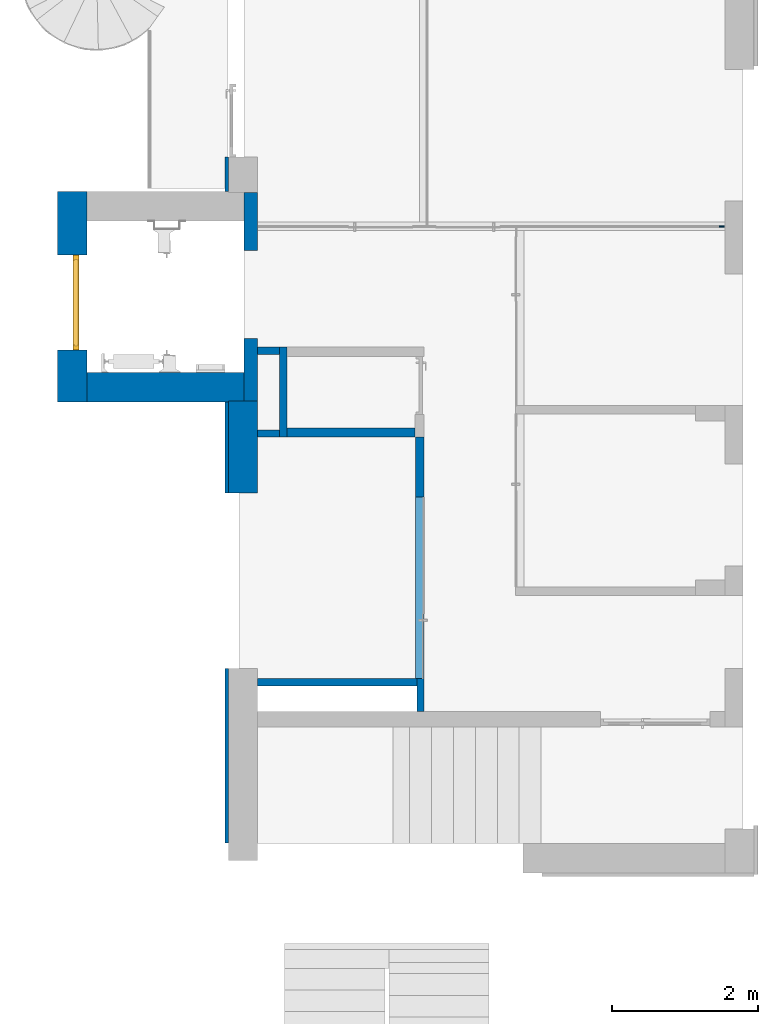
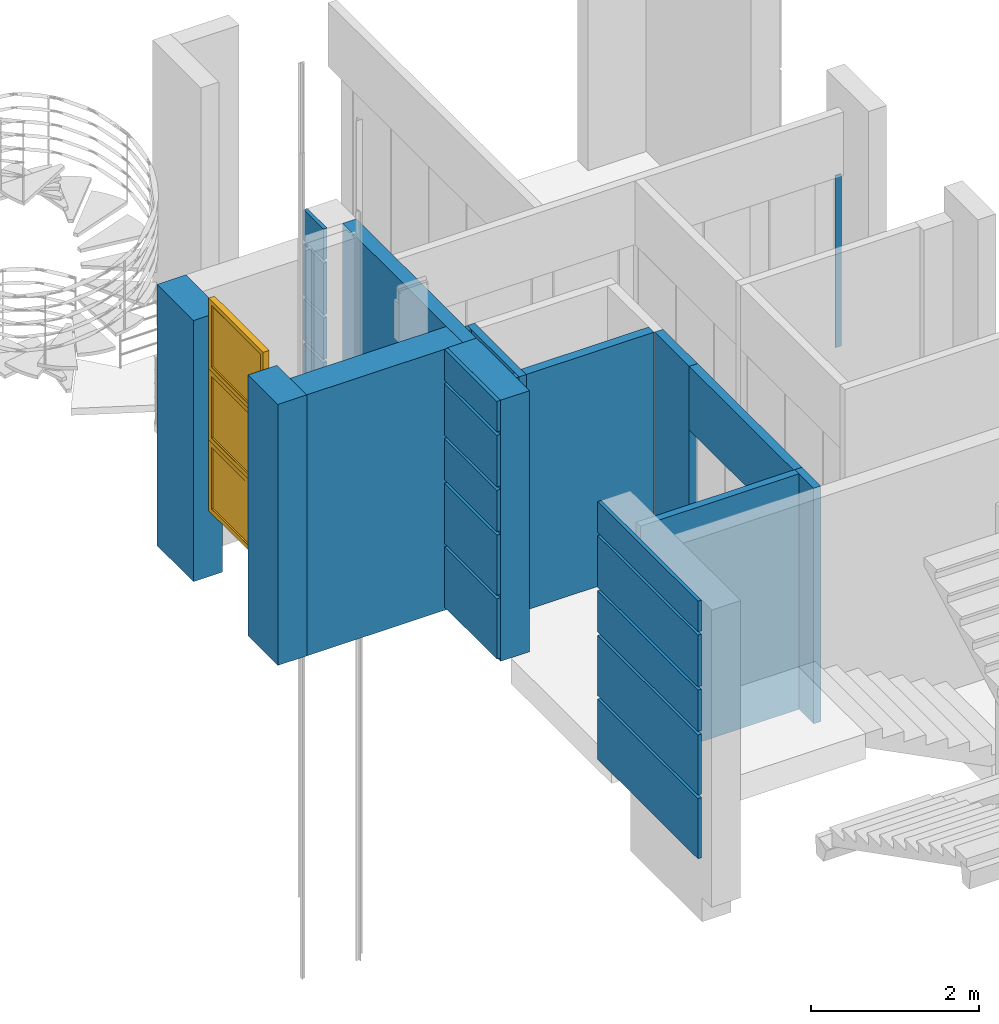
"""IFC2X3 building model written with IfcOpenShell, lengths in millimetres."""

from ifc_helpers import new_model, entity, si_unit, converted_unit, derived_unit, direction, frame, frame_2d, origin, origin_2d_with_axis, place, context, subcontext, project, spatial, rectangle, extrude, faceted_brep, source, transform, mapped, material, material_list, layer, layer_set, layer_usage, type_object, type_shapes, element, fill, aggregate, save


model = new_model("IFC2X3")

# Units and contexts
model_context = context("Model", 3, precision=0.01, world=origin(), true_north=direction((6.12303176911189e-17, 1.0)))
body_context = subcontext(model_context, "Body", "Model", "MODEL_VIEW")
ifc_project = project(units=[si_unit("LENGTHUNIT", "METRE", prefix="MILLI"), si_unit("AREAUNIT", "SQUARE_METRE"), si_unit("VOLUMEUNIT", "CUBIC_METRE"), converted_unit("PLANEANGLEUNIT", "DEGREE", entity("IfcRatioMeasure", 0.0174532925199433), si_unit("PLANEANGLEUNIT", "RADIAN"), dimensions=[0, 0, 0, 0, 0, 0, 0]), si_unit("MASSUNIT", "GRAM", prefix="KILO"), derived_unit("MASSDENSITYUNIT", [(si_unit("MASSUNIT", "GRAM", prefix="KILO"), 1), (si_unit("LENGTHUNIT", "METRE"), -3)]), si_unit("TIMEUNIT", "SECOND"), si_unit("FREQUENCYUNIT", "HERTZ"), si_unit("THERMODYNAMICTEMPERATUREUNIT", "DEGREE_CELSIUS"), derived_unit("THERMALTRANSMITTANCEUNIT", [(si_unit("MASSUNIT", "GRAM", prefix="KILO"), 1), (si_unit("THERMODYNAMICTEMPERATUREUNIT", "KELVIN"), -1), (si_unit("TIMEUNIT", "SECOND"), -3)]), derived_unit("VOLUMETRICFLOWRATEUNIT", [(si_unit("LENGTHUNIT", "METRE"), 3), (si_unit("TIMEUNIT", "SECOND"), -1)]), si_unit("ELECTRICCURRENTUNIT", "AMPERE"), si_unit("ELECTRICVOLTAGEUNIT", "VOLT"), si_unit("POWERUNIT", "WATT"), si_unit("FORCEUNIT", "NEWTON", prefix="KILO"), si_unit("ILLUMINANCEUNIT", "LUX"), si_unit("LUMINOUSFLUXUNIT", "LUMEN"), si_unit("LUMINOUSINTENSITYUNIT", "CANDELA"), derived_unit("USERDEFINED", [(si_unit("MASSUNIT", "GRAM", prefix="KILO"), -1), (si_unit("LENGTHUNIT", "METRE"), -2), (si_unit("TIMEUNIT", "SECOND"), 3), (si_unit("LUMINOUSFLUXUNIT", "LUMEN"), 1)]), derived_unit("LINEARVELOCITYUNIT", [(si_unit("LENGTHUNIT", "METRE"), 1), (si_unit("TIMEUNIT", "SECOND"), -1)]), si_unit("PRESSUREUNIT", "PASCAL"), derived_unit("USERDEFINED", [(si_unit("LENGTHUNIT", "METRE"), -2), (si_unit("MASSUNIT", "GRAM", prefix="KILO"), 1), (si_unit("TIMEUNIT", "SECOND"), -2)])], contexts=[model_context])

# Site, building, storey
site_placement = place(None, frame((-151.875543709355, 2715.0, 0.0)))
site = spatial("IfcSite", under=ifc_project, at=site_placement, Name="Surface", CompositionType="ELEMENT")
building_placement = place(site_placement, origin())
building = spatial("IfcBuilding", under=site, at=building_placement, CompositionType="ELEMENT")
storey_1_placement = place(building_placement, frame((0.0, 0.0, 3875.0)))
storey_1 = spatial("IfcBuildingStorey", under=building, at=storey_1_placement, Name="uus 2 korrus", CompositionType="ELEMENT", Elevation=3875.00000000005)

# Curtain wall, plate
curtain_wall_type = type_object("IfcCurtainWallType", Name="Curtain Wall:Klaassein KLS-15", PredefinedType="NOTDEFINED")
curtain_wall_placement = place(storey_1_placement, frame((0.0, 0.0, -3875.0)))
curtain_wall = element("IfcCurtainWall", 1, at=curtain_wall_placement, inside=storey_1, type_object=curtain_wall_type, Name="Curtain Wall:Klaassein KLS-15", ObjectType="Curtain Wall:Klaassein KLS-15")
ifc_material_1 = material(Name="<Unnamed>")
ifc_layer_1 = layer(ifc_material_1, 20.0)
ifc_layer_set_1 = layer_set([ifc_layer_1], Name="Curtain Wall:Klaassein KLS-01")
ifc_layer_usage_1 = layer_usage(ifc_layer_set_1, "AXIS3", "POSITIVE", 0.0)
plate_type = type_object("IfcPlateType", Name="Glazed", PredefinedType="CURTAIN_PANEL", material=ifc_layer_set_1)
shared_shape_1 = source(origin(), body_context, "Body", "SweptSolid", [
    extrude(rectangle(XDim=20.0, YDim=79.9999996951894, at=origin_2d_with_axis()), frame((0.0, 0.0, 0.0), z_axis=(0.0, 0.0, 1.0), x_axis=(0.0, 1.0, 0.0)), (0.0, 0.0, 1.0), 2500.00000000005),
])
type_shapes(plate_type, [shared_shape_1])
plate_placement = place(curtain_wall_placement, frame((38351.6162683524, 21659.9585633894, 3875.0)))
plate = element("IfcPlate", 2, at=plate_placement, type_object=plate_type, material=ifc_layer_usage_1, Name="System Panel:Glazed", ObjectType="Glazed", context=body_context, shape_type="MappedRepresentation", body=[
    mapped(shared_shape_1, transform((0.0, 0.0, 0.0), scale=1.0)),
])
aggregate(curtain_wall, [plate])

# Walls
ifc_material_2 = material(Name="__Kips GN13_tava")
ifc_layer_2 = layer(ifc_material_2, 12.5)
ifc_layer_3 = layer(ifc_material_2, 12.5)
ifc_material_3 = material(Name="__Soojustus EPS")
ifc_layer_4 = layer(ifc_material_3, 66.0)
ifc_layer_5 = layer(ifc_material_2, 12.5)
ifc_layer_6 = layer(ifc_material_2, 12.5)
ifc_layer_set_2 = layer_set([ifc_layer_2, ifc_layer_3, ifc_layer_4, ifc_layer_5, ifc_layer_6], Name="Basic Wall:SS-3_Kipssein tava ruumide vahel")
ifc_layer_usage_2 = layer_usage(ifc_layer_set_2, "AXIS2", "NEGATIVE", 58.0)
wall_type_1 = type_object("IfcWallType", Name="Basic Wall:SS-3_Kipssein tava ruumide vahel", PredefinedType="STANDARD", material=ifc_layer_set_2)
wall_1_placement = place(storey_1_placement, frame((34223.319652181, 17955.0, 2500.0), z_axis=(0.0, 0.0, 1.0), x_axis=(0.0, -1.0, 0.0)))
element("IfcWallStandardCase", 3, at=wall_1_placement, inside=storey_1, type_object=wall_type_1, material=ifc_layer_usage_2, Name="Basic Wall:SS-3_Kipssein tava ruumide vahel", ObjectType="Basic Wall:SS-3_Kipssein tava ruumide vahel", context=body_context, shape_type="SweptSolid", body=[
    extrude(rectangle(XDim=2485.0, YDim=116.0, at=frame_2d((1242.5, -1.27897692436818e-13), x_axis=(-1.0, 0.0))), origin(), (0.0, 0.0, 1.0), 924.999999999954),
])
ifc_layer_usage_3 = layer_usage(ifc_layer_set_2, "AXIS2", "NEGATIVE", 58.0)
wall_2_placement = place(storey_1_placement, frame((34223.0138355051, 18777.9710030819, 0.0), z_axis=(0.0, 0.0, 1.0), x_axis=(0.0, -1.0, 0.0)))
element("IfcWallStandardCase", 4, at=wall_2_placement, inside=storey_1, type_object=wall_type_1, material=ifc_layer_usage_3, Name="Basic Wall:SS-3_Kipssein tava ruumide vahel", ObjectType="Basic Wall:SS-3_Kipssein tava ruumide vahel", context=body_context, shape_type="SweptSolid", body=[
    extrude(rectangle(XDim=822.971003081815, YDim=116.0, at=frame_2d((411.485501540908, 4.54747350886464e-13), x_axis=(-1.0, 0.0))), origin(), (0.0, 0.0, 1.0), 3425.0),
])
ifc_material_4 = material(Name="__Tuuletõkkeplaat")
ifc_layer_7 = layer(ifc_material_4, 9.0)
ifc_layer_8 = layer(ifc_material_3, 200.0)
ifc_material_5 = material(Name="__Kergblokk")
ifc_layer_9 = layer(ifc_material_5, 190.0)
ifc_layer_set_3 = layer_set([ifc_layer_7, ifc_layer_8, ifc_layer_9], Name="Basic Wall:VS-2.2_Juurdeehituse välissein")
ifc_layer_usage_4 = layer_usage(ifc_layer_set_3, "AXIS2", "NEGATIVE", 199.5)
wall_type_2 = type_object("IfcWallType", Name="Basic Wall:VS-2.2_Juurdeehituse välissein", PredefinedType="STANDARD", material=ifc_layer_set_3)
wall_3_placement = place(storey_1_placement, frame((31802.1162682, 18009.9542610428, 0.0), z_axis=(0.0, 0.0, 1.0), x_axis=(0.0, 1.0, 0.0)))
element("IfcWallStandardCase", 5, at=wall_3_placement, inside=storey_1, type_object=wall_type_2, material=ifc_layer_usage_4, Name="Basic Wall:VS-2.2_Juurdeehituse välissein", ObjectType="Basic Wall:VS-2.2_Juurdeehituse välissein", context=body_context, shape_type="SweptSolid", body=[
    extrude(rectangle(XDim=1260.04573912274, YDim=398.999999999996, at=frame_2d((630.022869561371, 0.0), x_axis=(-1.0, 0.0))), origin(), (0.0, 0.0, 1.0), 3795.0),
])
ifc_layer_usage_5 = layer_usage(ifc_layer_set_3, "AXIS2", "NEGATIVE", 199.5)
wall_4_placement = place(storey_1_placement, frame((31811.6162682, 19460.5000001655, 0.0), z_axis=(0.0, 0.0, 1.0), x_axis=(-1.0, 0.0, 0.0)))
element("IfcWallStandardCase", 6, at=wall_4_placement, inside=storey_1, type_object=wall_type_2, material=ifc_layer_usage_5, Name="Basic Wall:VS-2.2_Juurdeehituse välissein", ObjectType="Basic Wall:VS-2.2_Juurdeehituse välissein", context=body_context, shape_type="SweptSolid", body=[
    extrude(rectangle(XDim=2149.99850106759, YDim=399.0, at=frame_2d((1074.99925053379, -1.4210854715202e-13), x_axis=(-1.0, 0.0))), origin(), (0.0, 0.0, 1.0), 3795.0),
])

# Wall, openings, windows
ifc_layer_usage_6 = layer_usage(ifc_layer_set_3, "AXIS2", "NEGATIVE", 199.5)
wall_5_placement = place(storey_1_placement, frame((29462.1177671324, 19261.0, 0.0), z_axis=(0.0, 0.0, 1.0), x_axis=(0.0, 1.0, 0.0)))
wall_5 = element("IfcWallStandardCase", 7, at=wall_5_placement, inside=storey_1, type_object=wall_type_2, material=ifc_layer_usage_6, Name="Basic Wall:VS-2.2_Juurdeehituse välissein", ObjectType="Basic Wall:VS-2.2_Juurdeehituse välissein", context=body_context, shape_type="SweptSolid", body=[
    extrude(rectangle(XDim=2878.0, YDim=398.999999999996, at=frame_2d((1439.0, 6.11066752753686e-13), x_axis=(-1.0, 0.0))), origin(), (0.0, 0.0, 1.0), 3795.0),
])
opening_1_placement = place(wall_5_placement, origin())
element("IfcOpeningElement", 8, at=opening_1_placement, cuts=wall_5, Name="Basic Wall:VS-2.2_Juurdeehituse välissein", ObjectType="Opening", context=body_context, shape_type="SweptSolid", body=[
    extrude(rectangle(XDim=1030.0, YDim=1300.0, at=frame_2d((5.6843418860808e-13, 0.0), x_axis=(1.0, 0.0))), frame((1359.0, -1723.5, 445.000057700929), z_axis=(0.0, 1.0, 0.0), x_axis=(0.0, 0.0, 1.0)), (0.0, 0.0, 1.0), 3048.0),
])
opening_2_placement = place(wall_5_placement, frame((709.0, -199.500000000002, 1990.00008655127)))
opening_2 = element("IfcOpeningElement", 9, at=opening_2_placement, cuts=wall_5, Name="lifti aken:liftiaken 2:1", ObjectType="Opening", context=body_context, shape_type="SweptSolid", body=[
    extrude(rectangle(XDim=1030.0, YDim=1300.0, at=frame_2d((514.999999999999, 650.0), x_axis=(1.0, 0.0))), frame((0.0, 0.0, 0.0), z_axis=(0.0, 1.0, 0.0), x_axis=(0.0, 0.0, 1.0)), (0.0, 0.0, 1.0), 399.0),
])
opening_3_placement = place(wall_5_placement, frame((709.0, -199.500000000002, 3020.00010097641)))
opening_3 = element("IfcOpeningElement", 10, at=opening_3_placement, cuts=wall_5, Name="lifti aken:liftiaken 2:1", ObjectType="Opening", context=body_context, shape_type="SweptSolid", body=[
    extrude(rectangle(XDim=1030.0, YDim=1300.0, at=frame_2d((514.999999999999, 650.0), x_axis=(1.0, 0.0))), frame((0.0, 0.0, 0.0), z_axis=(0.0, 1.0, 0.0), x_axis=(0.0, 0.0, 1.0)), (0.0, 0.0, 1.0), 399.0),
])
opening_4_placement = place(wall_5_placement, frame((709.0, -199.500000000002, 960.000072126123)))
opening_4 = element("IfcOpeningElement", 11, at=opening_4_placement, cuts=wall_5, Name="lifti aken:liftiaken 2:1", ObjectType="Opening", context=body_context, shape_type="SweptSolid", body=[
    extrude(rectangle(XDim=1030.0, YDim=1300.0, at=frame_2d((514.999999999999, 650.0), x_axis=(1.0, 0.0))), frame((0.0, 0.0, 0.0), z_axis=(0.0, 1.0, 0.0), x_axis=(0.0, 0.0, 1.0)), (0.0, 0.0, 1.0), 399.0),
])
ifc_material_6 = material(Name="Glass - Oknoplast - Glass")
ifc_material_7 = material(Name="Steel/Aluminium")
ifc_material_list_1 = material_list([ifc_material_6, ifc_material_7])
ifc_material_list_2 = material_list([ifc_material_6, ifc_material_7])
window_style = type_object("IfcWindowStyle", Name="liftiaken 2", ConstructionType="NOTDEFINED", OperationType="NOTDEFINED", ParameterTakesPrecedence=False, Sizeable=False, material=ifc_material_list_2)
shared_shape_2 = source(origin(), body_context, "Body", "Brep", [
    faceted_brep([(58.0, 130.0, 58.0), (1242.0, 130.0, 58.0), (1242.0, 127.0, 58.0), (58.0, 127.0, 58.0), (58.0, 130.0, 972.0), (1242.0, 130.0, 972.0), (1242.0, 127.0, 972.0), (58.0, 127.0, 972.0)], [[[0, 1, 2, 3]], [[4, 5, 1, 0]], [[5, 6, 2, 1]], [[6, 7, 3, 2]], [[7, 4, 0, 3]], [[4, 7, 6, 5]]]),
    faceted_brep([(58.0, 171.0, 972.0), (1242.0, 171.0, 972.0), (1242.0, 171.0, 58.0), (58.0, 171.0, 58.0), (1242.0, 167.0, 972.0), (1242.0, 167.0, 58.0), (58.0, 167.0, 972.0), (58.0, 167.0, 58.0)], [[[0, 1, 2, 3]], [[1, 4, 5, 2]], [[4, 6, 7, 5]], [[6, 0, 3, 7]], [[0, 6, 4, 1]], [[3, 2, 5, 7]]]),
    faceted_brep([(58.0, 149.0, 972.0), (1242.0, 149.0, 972.0), (1242.0, 149.0, 58.0), (58.0, 149.0, 58.0), (1242.0, 146.0, 972.0), (1242.0, 146.0, 58.0), (58.0, 146.0, 972.0), (58.0, 146.0, 58.0)], [[[0, 1, 2, 3]], [[1, 4, 5, 2]], [[4, 6, 7, 5]], [[6, 0, 3, 7]], [[0, 6, 4, 1]], [[3, 2, 5, 7]]]),
    faceted_brep([(0.0, 189.999993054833, 1030.0), (0.0, 107.999987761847, 1030.0), (1300.0, 107.999987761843, 1030.0), (1300.0, 189.999993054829, 1030.0), (58.0, 127.0, 972.0), (58.0, 170.999989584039, 972.0), (1242.0, 170.999989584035, 972.0), (1242.0, 127.0, 972.0), (1300.0, 107.999987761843, 0.0), (1300.0, 189.999993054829, 0.0), (1242.0, 170.999989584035, 58.0), (1242.0, 127.0, 58.0), (0.0, 107.999987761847, 0.0), (0.0, 189.999993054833, 0.0), (58.0, 170.999989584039, 58.0), (58.0, 127.0, 58.0), (65.8684211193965, 189.999993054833, 65.8684211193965), (1234.1315788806, 189.999993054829, 65.8684211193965), (65.8684211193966, 189.999993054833, 964.131578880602), (1234.1315788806, 189.999993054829, 964.131578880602), (1227.0, 170.999989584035, 73.0), (73.0, 170.999989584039, 73.0), (1227.0, 170.999989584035, 957.0), (73.0, 170.999989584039, 957.0), (67.8684194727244, 189.46408449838, 962.131580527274), (1231.30315412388, 188.828410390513, 961.303154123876), (1230.26787883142, 187.03526076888, 960.267878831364), (69.7321211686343, 187.035260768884, 960.267878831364), (73.0, 174.839370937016, 957.0), (1227.0, 174.839370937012, 957.0), (73.0, 123.140867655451, 957.0), (73.0, 127.0, 957.0), (1227.0, 127.0, 957.0), (1227.0, 123.140867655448, 957.0), (1231.30315412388, 188.828410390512, 68.6968458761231), (1230.26787883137, 187.03526076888, 69.7321211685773), (1227.0, 174.839370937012, 73.0), (1227.0, 127.0, 73.0), (1227.0, 123.140867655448, 73.0), (68.696845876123, 188.828410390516, 68.6968458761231), (69.7321211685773, 187.035260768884, 69.7321211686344), (73.0, 174.839370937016, 73.0), (73.0, 127.0, 73.0), (73.0, 123.140867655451, 73.0), (67.8172078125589, 110.484175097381, 962.182792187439), (1232.18279218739, 110.484175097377, 962.182792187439), (66.7207028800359, 108.964666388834, 963.279297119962), (1234.06272749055, 108.438903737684, 964.062727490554), (1235.8844271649, 107.999995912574, 965.884427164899), (64.1155728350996, 107.999995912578, 965.884427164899), (1232.18279218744, 110.484175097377, 67.8172078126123), (1234.06272749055, 108.438903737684, 65.9372725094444), (1235.8844271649, 107.999995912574, 64.1155728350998), (67.8172078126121, 110.484175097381, 67.8172078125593), (65.9372725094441, 108.438903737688, 65.9372725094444), (64.1155728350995, 107.999995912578, 64.1155728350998)], [[[0, 1, 2, 3]], [[4, 5, 6, 7]], [[3, 2, 8, 9]], [[7, 6, 10, 11]], [[9, 8, 12, 13]], [[11, 10, 14, 15]], [[13, 12, 1, 0]], [[13, 16, 17]], [[16, 13, 18]], [[17, 9, 13]], [[0, 18, 13]], [[18, 0, 19]], [[3, 19, 0]], [[19, 3, 9]], [[9, 17, 19]], [[10, 20, 21]], [[20, 10, 22]], [[21, 14, 10]], [[6, 22, 10]], [[22, 6, 23]], [[5, 23, 6]], [[23, 5, 14]], [[14, 21, 23]], [[15, 14, 5, 4]], [[18, 19, 24]], [[24, 19, 25]], [[25, 26, 27]], [[25, 27, 24]], [[28, 27, 26, 29]], [[23, 28, 29, 22]], [[30, 31, 32, 33]], [[19, 17, 34, 25]], [[34, 35, 26, 25]], [[29, 26, 35, 36]], [[22, 29, 36, 20]], [[33, 32, 37, 38]], [[17, 16, 39, 34]], [[39, 40, 35, 34]], [[36, 35, 40, 41]], [[20, 36, 41, 21]], [[38, 37, 42, 43]], [[16, 18, 24]], [[16, 24, 39]], [[39, 27, 40]], [[27, 39, 24]], [[41, 40, 27, 28]], [[21, 41, 28, 23]], [[43, 42, 31, 30]], [[44, 30, 33, 45]], [[44, 45, 46]], [[46, 45, 47]], [[47, 48, 49]], [[47, 49, 46]], [[45, 33, 38, 50]], [[45, 50, 51, 47]], [[51, 52, 48, 47]], [[50, 38, 43, 53]], [[50, 53, 54, 51]], [[54, 55, 52, 51]], [[15, 42, 37]], [[42, 15, 31]], [[37, 11, 15]], [[4, 31, 15]], [[31, 4, 32]], [[7, 32, 4]], [[32, 7, 11]], [[11, 37, 32]], [[53, 43, 30, 44]], [[53, 44, 46]], [[53, 46, 54]], [[54, 49, 55]], [[49, 54, 46]], [[8, 52, 55, 12]], [[52, 8, 2, 48]], [[12, 55, 49, 1]], [[48, 2, 1, 49]]]),
])
type_shapes(window_style, [shared_shape_2])
window_1_placement = place(opening_4_placement, origin())
window_1 = element("IfcWindow", 12, at=window_1_placement, inside=storey_1, type_object=window_style, material=ifc_material_list_1, Name="lifti aken:liftiaken 2", ObjectType="liftiaken 2", OverallHeight=1030.0, OverallWidth=1300.0, context=body_context, shape_type="MappedRepresentation", body=[
    mapped(shared_shape_2, transform((0.0, 0.0, 0.0), scale=1.0)),
])
fill(opening_4, window_1)
ifc_material_list_3 = material_list([ifc_material_6, ifc_material_7])
window_2_placement = place(opening_2_placement, origin())
window_2 = element("IfcWindow", 13, at=window_2_placement, inside=storey_1, type_object=window_style, material=ifc_material_list_3, Name="lifti aken:liftiaken 2", ObjectType="liftiaken 2", OverallHeight=1030.0, OverallWidth=1300.0, context=body_context, shape_type="MappedRepresentation", body=[
    mapped(shared_shape_2, transform((0.0, 0.0, 0.0), scale=1.0)),
])
fill(opening_2, window_2)

# Storey
storey_2_placement = place(building_placement, frame((0.0, 0.0, 6730.43000000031)))
storey_2 = spatial("IfcBuildingStorey", under=building, at=storey_2_placement, Name="3 korrus", CompositionType="ELEMENT", Elevation=6730.43000000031)

# Window
ifc_material_list_4 = material_list([ifc_material_6, ifc_material_7])
window_3_placement = place(opening_3_placement, origin())
window_3 = element("IfcWindow", 14, at=window_3_placement, inside=storey_2, type_object=window_style, material=ifc_material_list_4, Name="lifti aken:liftiaken 2", ObjectType="liftiaken 2", OverallHeight=1030.0, OverallWidth=1300.0, context=body_context, shape_type="MappedRepresentation", body=[
    mapped(shared_shape_2, transform((0.0, 0.0, 0.0), scale=1.0)),
])

fill(opening_3, window_3)

# Walls
ifc_layer_10 = layer(ifc_material_2, 12.5)
ifc_layer_11 = layer(ifc_material_2, 12.5)
ifc_layer_12 = layer(ifc_material_3, 66.0)
ifc_material_8 = material(Name="__Kips GKB_niiskuskindel")
ifc_layer_13 = layer(ifc_material_8, 12.5)
ifc_layer_14 = layer(ifc_material_8, 12.5)
ifc_material_9 = material(Name="Keraamiline_plaat")
ifc_layer_15 = layer(ifc_material_9, 10.0)
ifc_layer_set_4 = layer_set([ifc_layer_10, ifc_layer_11, ifc_layer_12, ifc_layer_13, ifc_layer_14, ifc_layer_15], Name="Basic Wall:SS-4_Kipssein tava ja niiske ruumi vahel")
ifc_layer_usage_7 = layer_usage(ifc_layer_set_4, "AXIS2", "POSITIVE", -63.0)
wall_type_3 = type_object("IfcWallType", Name="Basic Wall:SS-4_Kipssein tava ja niiske ruumi vahel", PredefinedType="STANDARD", material=ifc_layer_set_4)
wall_6_placement = place(storey_1_placement, frame((32401.6162682, 18840.9525395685, 0.0)))
element("IfcWallStandardCase", 15, at=wall_6_placement, inside=storey_1, type_object=wall_type_3, material=ifc_layer_usage_7, Name="Basic Wall:SS-4_Kipssein tava ja niiske ruumi vahel", ObjectType="Basic Wall:SS-4_Kipssein tava ja niiske ruumi vahel", context=body_context, shape_type="SweptSolid", body=[
    extrude(rectangle(XDim=1753.39756730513, YDim=126.000000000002, at=frame_2d((876.698783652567, -3.33955085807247e-13), x_axis=(-1.0, 0.0))), origin(), (0.0, 0.0, 1.0), 3425.0),
])
ifc_material_10 = material(Name="__Helehall")
ifc_layer_16 = layer(ifc_material_10, 10.0)
ifc_layer_17 = layer(ifc_material_5, 90.0)
ifc_layer_set_5 = layer_set([ifc_layer_16, ifc_layer_17], Name="Basic Wall:SS-6_Šahti sein EI-60")
ifc_layer_usage_8 = layer_usage(ifc_layer_set_5, "AXIS2", "POSITIVE", -50.0)
wall_type_4 = type_object("IfcWallType", Name="Basic Wall:SS-6_Šahti sein EI-60", PredefinedType="STANDARD", material=ifc_layer_set_5)
wall_7_placement = place(storey_1_placement, frame((34231.6162682, 15020.0, 0.0), z_axis=(0.0, 0.0, 1.0), x_axis=(0.0, 1.0, 0.0)))
element("IfcWallStandardCase", 16, at=wall_7_placement, inside=storey_1, type_object=wall_type_4, material=ifc_layer_usage_8, Name="Basic Wall:SS-6_Šahti sein EI-60", ObjectType="Basic Wall:SS-6_Šahti sein EI-60", context=body_context, shape_type="SweptSolid", body=[
    extrude(rectangle(XDim=449.999999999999, YDim=100.000000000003, at=frame_2d((225.0, 0.0), x_axis=(-1.0, 0.0))), origin(), (0.0, 0.0, 1.0), 3425.0),
])
ifc_layer_usage_9 = layer_usage(ifc_layer_set_5, "AXIS2", "POSITIVE", -50.0)
wall_8_placement = place(storey_1_placement, frame((34181.6162682, 15420.0, 0.0), z_axis=(0.0, 0.0, 1.0), x_axis=(-1.0, 0.0, 0.0)))
element("IfcWallStandardCase", 17, at=wall_8_placement, inside=storey_1, type_object=wall_type_4, material=ifc_layer_usage_9, Name="Basic Wall:SS-6_Šahti sein EI-60", ObjectType="Basic Wall:SS-6_Šahti sein EI-60", context=body_context, shape_type="SweptSolid", body=[
    extrude(rectangle(XDim=2180.0, YDim=99.9999999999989, at=frame_2d((1090.0, 3.05533376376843e-13), x_axis=(-1.0, 0.0))), origin(), (0.0, 0.0, 1.0), 3425.0),
])
ifc_layer_usage_10 = layer_usage(ifc_layer_set_5, "AXIS2", "POSITIVE", -50.0)
wall_9_placement = place(storey_1_placement, frame((32351.6162682, 18777.9525395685, 0.0), z_axis=(0.0, 0.0, 1.0), x_axis=(0.0, 1.0, 0.0)))
element("IfcWallStandardCase", 18, at=wall_9_placement, inside=storey_1, type_object=wall_type_4, material=ifc_layer_usage_10, Name="Basic Wall:SS-6_Šahti sein EI-60", ObjectType="Basic Wall:SS-6_Šahti sein EI-60", context=body_context, shape_type="SweptSolid", body=[
    extrude(rectangle(XDim=1231.9733438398, YDim=100.000000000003, at=frame_2d((615.986671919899, 0.0), x_axis=(-1.0, 0.0))), origin(), (0.0, 0.0, 1.0), 3425.0),
])
ifc_layer_usage_11 = layer_usage(ifc_layer_set_5, "AXIS2", "POSITIVE", -50.0)
wall_10_placement = place(storey_1_placement, frame((32301.6162682, 19959.9258834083, 0.0), z_axis=(0.0, 0.0, 1.0), x_axis=(-1.0, 0.0, 0.0)))
element("IfcWallStandardCase", 19, at=wall_10_placement, inside=storey_1, type_object=wall_type_4, material=ifc_layer_usage_11, Name="Basic Wall:SS-6_Šahti sein EI-60", ObjectType="Basic Wall:SS-6_Šahti sein EI-60", context=body_context, shape_type="SweptSolid", body=[
    extrude(rectangle(XDim=299.999999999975, YDim=100.000000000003, at=frame_2d((149.999999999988, 0.0), x_axis=(-1.0, 0.0))), origin(), (0.0, 0.0, 1.0), 3425.0),
])
ifc_layer_usage_12 = layer_usage(ifc_layer_set_5, "AXIS2", "NEGATIVE", 50.0)
wall_11_placement = place(storey_1_placement, frame((32301.6162682, 18827.9525395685, 0.0), z_axis=(0.0, 0.0, 1.0), x_axis=(-1.0, 0.0, 0.0)))
element("IfcWallStandardCase", 20, at=wall_11_placement, inside=storey_1, type_object=wall_type_4, material=ifc_layer_usage_12, Name="Basic Wall:SS-6_Šahti sein EI-60", ObjectType="Basic Wall:SS-6_Šahti sein EI-60", context=body_context, shape_type="SweptSolid", body=[
    extrude(rectangle(XDim=299.999999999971, YDim=99.9999999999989, at=frame_2d((149.999999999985, 0.0), x_axis=(-1.0, 0.0))), origin(), (0.0, 0.0, 1.0), 3425.0),
])

# Wall, opening
ifc_layer_18 = layer(ifc_material_5, 190.0)
ifc_layer_set_6 = layer_set([ifc_layer_18], Name="Basic Wall:Juurdeehituse välissein_soojustuseta")
ifc_layer_usage_13 = layer_usage(ifc_layer_set_6, "AXIS2", "NEGATIVE", 95.0)
wall_type_5 = type_object("IfcWallType", Name="Basic Wall:Juurdeehituse välissein_soojustuseta", PredefinedType="STANDARD", material=ifc_layer_set_6)
wall_12_placement = place(storey_1_placement, frame((31906.6162682, 19270.0, 0.0), z_axis=(0.0, 0.0, 1.0), x_axis=(0.0, 1.0, 0.0)))
wall_12 = element("IfcWallStandardCase", 21, at=wall_12_placement, inside=storey_1, type_object=wall_type_5, material=ifc_layer_usage_13, Name="Basic Wall:Juurdeehituse välissein_soojustuseta", ObjectType="Basic Wall:Juurdeehituse välissein_soojustuseta", context=body_context, shape_type="SweptSolid", body=[
    extrude(rectangle(XDim=2860.0, YDim=190.0, at=frame_2d((1430.0, 0.0), x_axis=(-1.0, 0.0))), origin(), (0.0, 0.0, 1.0), 3795.0),
])
opening_5_placement = place(wall_12_placement, origin())
element("IfcOpeningElement", 22, at=opening_5_placement, cuts=wall_12, Name="Basic Wall:Juurdeehituse välissein_soojustuseta", ObjectType="Opening", context=body_context, shape_type="SweptSolid", body=[
    extrude(rectangle(XDim=2180.0, YDim=1199.99999983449, at=frame_2d((2.27373675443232e-13, 0.0), x_axis=(1.0, 0.0))), frame((1460.0, -95.0, 1090.0), z_axis=(0.0, 1.0, 0.0), x_axis=(0.0, 0.0, -1.0)), (0.0, 0.0, 1.0), 190.0),
])

# Wall
wall_type_6 = type_object("IfcWallType", Name="fassaad1.2:fassaad 2", PredefinedType="NOTDEFINED", material=ifc_material_7)
wall_13_placement = place(storey_1_placement, frame((31552.6162681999, 13221.7852732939, 50.0), z_axis=(0.0, 0.0, 1.0), x_axis=(0.0, 1.0, 0.0)))
element("IfcWall", 23, at=wall_13_placement, inside=storey_1, type_object=wall_type_6, material=ifc_material_7, Name="fassaad1.2:fassaad 2", ObjectType="fassaad1.2:fassaad 2", context=body_context, shape_type="SweptSolid", body=[
    extrude(rectangle(XDim=50.0000000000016, YDim=2389.28983966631, at=origin_2d_with_axis()), frame((1194.64491983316, -25.0, 3300.0), z_axis=(0.0, 0.0, 1.0), x_axis=(0.0, -1.0, 0.0)), (0.0, 0.0, 1.0), 444.999987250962),
    extrude(rectangle(XDim=50.0000000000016, YDim=1250.0, at=frame_2d((0.0, -1.13686837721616e-12), x_axis=(1.0, 0.0))), frame((5414.2441134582, -25.0, 925.0), z_axis=(0.0, 0.0, 1.0), x_axis=(0.0, -1.0, 0.0)), (0.0, 0.0, 1.0), 874.999999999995),
    extrude(rectangle(XDim=50.0000000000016, YDim=1250.0, at=frame_2d((-4.33253433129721e-12, -1.13686837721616e-12), x_axis=(1.0, 0.0))), frame((5414.2441134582, -25.0, 0.0), z_axis=(0.0, 0.0, 1.0), x_axis=(0.0, -1.0, 0.0)), (0.0, 0.0, 1.0), 875.0),
    extrude(rectangle(XDim=50.0000000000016, YDim=2389.28983966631, at=frame_2d((4.33253433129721e-12, 0.0), x_axis=(1.0, 0.0))), frame((1194.64491983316, -25.0, 925.0), z_axis=(0.0, 0.0, 1.0), x_axis=(0.0, -1.0, 0.0)), (0.0, 0.0, 1.0), 874.999999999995),
    extrude(rectangle(XDim=50.0000000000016, YDim=2389.28983966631, at=origin_2d_with_axis()), frame((1194.64491983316, -25.0, 0.0), z_axis=(0.0, 0.0, 1.0), x_axis=(0.0, -1.0, 0.0)), (0.0, 0.0, 1.0), 875.0),
    extrude(rectangle(XDim=50.0000000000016, YDim=470.000000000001, at=frame_2d((2.16715534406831e-12, -2.17426077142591e-12), x_axis=(1.0, 0.0))), frame((9154.28985241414, -25.0, 925.0), z_axis=(0.0, 0.0, 1.0), x_axis=(0.0, -1.0, 0.0)), (0.0, 0.0, 1.0), 874.999999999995),
    extrude(rectangle(XDim=50.0000000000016, YDim=470.000000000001, at=frame_2d((-2.16715534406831e-12, -2.17426077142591e-12), x_axis=(1.0, 0.0))), frame((9154.28985241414, -25.0, 0.0), z_axis=(0.0, 0.0, 1.0), x_axis=(0.0, -1.0, 0.0)), (0.0, 0.0, 1.0), 875.0),
    extrude(rectangle(XDim=50.0000000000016, YDim=470.000000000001, at=frame_2d((4.33253433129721e-12, -2.17426077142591e-12), x_axis=(1.0, 0.0))), frame((9154.28985241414, -25.0, 3300.0), z_axis=(0.0, 0.0, 1.0), x_axis=(0.0, -1.0, 0.0)), (0.0, 0.0, 1.0), 444.999999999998),
    extrude(rectangle(XDim=50.0000000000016, YDim=1250.0, at=frame_2d((0.0, -1.13686837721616e-12), x_axis=(1.0, 0.0))), frame((5414.2441134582, -25.0, 3300.0), z_axis=(0.0, 0.0, 1.0), x_axis=(0.0, -1.0, 0.0)), (0.0, 0.0, 1.0), 444.999999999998),
    extrude(rectangle(XDim=50.0000000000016, YDim=1250.00000000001, at=frame_2d((-4.33253433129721e-12, -1.08002495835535e-12), x_axis=(1.0, 0.0))), frame((5414.24411345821, -25.0, 2500.00002), z_axis=(0.0, 0.0, 1.0), x_axis=(0.0, -1.0, 0.0)), (0.0, 0.0, 1.0), 749.999979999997),
    extrude(rectangle(XDim=50.0000000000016, YDim=1250.0, at=frame_2d((2.16537898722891e-12, -1.13686837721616e-12), x_axis=(1.0, 0.0))), frame((5414.2441134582, -25.0, 1850.0), z_axis=(0.0, 0.0, 1.0), x_axis=(0.0, -1.0, 0.0)), (0.0, 0.0, 1.0), 600.000020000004),
    extrude(rectangle(XDim=50.0000000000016, YDim=2389.28983966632, at=origin_2d_with_axis()), frame((1194.64491983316, -25.0, 2500.00002), z_axis=(0.0, 0.0, 1.0), x_axis=(0.0, -1.0, 0.0)), (0.0, 0.0, 1.0), 749.999979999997),
    extrude(rectangle(XDim=50.0000000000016, YDim=2389.28983966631, at=frame_2d((-2.16537898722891e-12, 0.0), x_axis=(1.0, 0.0))), frame((1194.64491983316, -25.0, 1850.0), z_axis=(0.0, 0.0, 1.0), x_axis=(0.0, -1.0, 0.0)), (0.0, 0.0, 1.0), 600.000020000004),
    extrude(rectangle(XDim=50.0000000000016, YDim=470.00000000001, at=frame_2d((-2.16715534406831e-12, 2.1600499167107e-12), x_axis=(1.0, 0.0))), frame((9154.28985241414, -25.0, 2500.00002000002), z_axis=(0.0, 0.0, 1.0), x_axis=(0.0, -1.0, 0.0)), (0.0, 0.0, 1.0), 749.999979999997),
    extrude(rectangle(XDim=50.0000000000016, YDim=470.000000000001, at=frame_2d((0.0, -2.17426077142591e-12), x_axis=(1.0, 0.0))), frame((9154.28985241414, -25.0, 1850.0), z_axis=(0.0, 0.0, 1.0), x_axis=(0.0, -1.0, 0.0)), (0.0, 0.0, 1.0), 600.000020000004),
])

save(model, "model.ifc")
